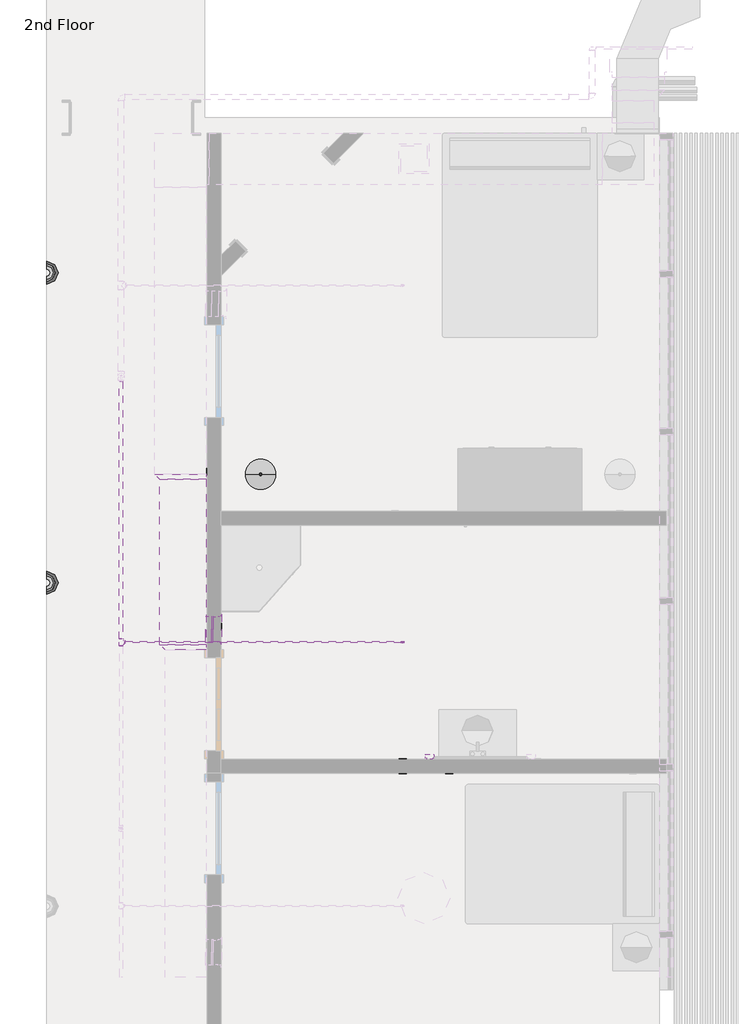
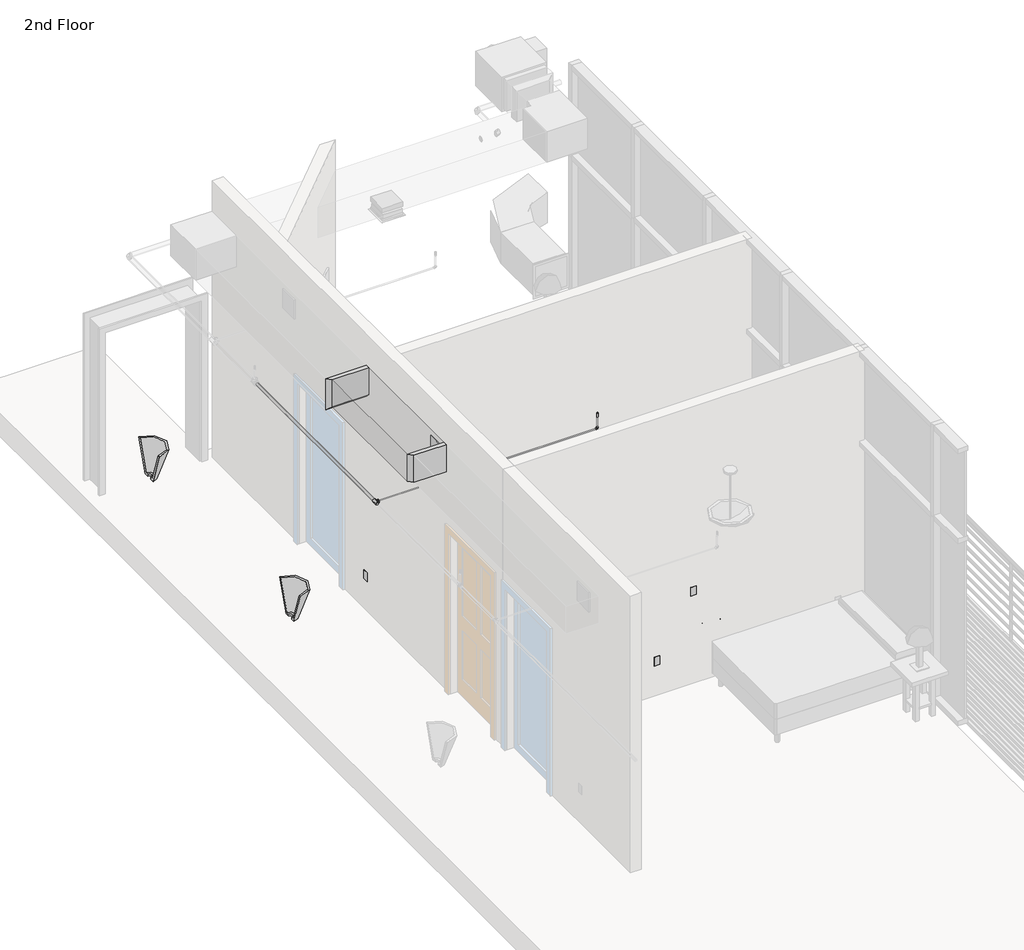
# One storey, part 5 of 7: 25 pipe fittings, 24 pipe segments, 4 light fixtures, 4 proxies, 3 duct fittings, 2 duct segments, 1 air terminal, 1 electric appliance, 1 fire suppression terminal.
"""IFC4 building model written with IfcOpenShell, lengths in millimetres."""

from ifc_helpers import new_model, si_unit, point, frame, frame_2d, origin, place, context, project, spatial, polyline, circle_curve, trimmed, segment, composite_curve, outline, extrude, transform, mapped, element, save
from components import air_terminal_37217d21, receptacle_gfci_367a9a66, rectangular_duct_takeoff_sidewall_standard_8ecd27dc, rectangular_duct_transition_standard_567f2710, rectangular_duct_transition_standard_d7059f15, telephone_wall_10251bba, fire_suppression_terminal_f250fbbb, light_fixture_120v_8a54b260, sconce_light_uplight_100w_120v_70b3641e, bow_series_bow_series_fd234733, pipe_elbow_standard_aad62f2d, pipe_pvc_bend_standard_2273d009, pipe_pvc_bend_standard_0bbfa224, pipe_pvc_bend_standard_f934f846, pipe_pvc_bend_standard_dba494f2, pipe_pvc_bend_standard_4ddb6c24, pipe_pvc_bend_standard_ed346d0c, pipe_pvc_short_sanitary_tee_standard_09ca7ede, pipe_pvc_transition_eccentric_standard_d1b767a5, pipe_tee_standard_60c871d1, pipe_tee_standard_36278b8a, pipe_transition_eccentric_standard_8ef0957a, pipe_transition_eccentric_standard_8de4c794, pipe_transition_eccentric_standard_b9d171b6

model = new_model("IFC4")

# Units and contexts
model_context = context("Model", 3, world=origin())
ifc_project = project(units=[si_unit("LENGTHUNIT", "METRE", prefix="MILLI")], contexts=[model_context])

# Site, building, storey
site = spatial("IfcSite", under=ifc_project)
building = spatial("IfcBuilding", under=site)
storey = spatial("IfcBuildingStorey", under=building, Name="2nd Floor", Elevation=7924.8)

# Air terminal
placement = place(None, origin())
air_terminal_shape = air_terminal_37217d21(model_context)
element("IfcAirTerminal", 1, ObjectType="Sidewall Diffuser : 10\" x 10\"", at=placement, inside=storey, context=model_context, shape_type="MappedRepresentation", body=[
    mapped(air_terminal_shape, transform((-2752.277497, 4276.4310017, 10972.8), x_axis=(0.0, 1.0, 0.0), y_axis=(-1.0, 0.0, 0.0), z_axis=(0.0, 0.0, 1.0))),
])

# Proxies
receptacle_gfci_shape = receptacle_gfci_367a9a66(model_context)
element("IfcBuildingElementProxy", 2, Name="Receptacle : Standard", ObjectType="Receptacle : Standard", at=placement, inside=storey, context=model_context, shape_type="MappedRepresentation", body=[
    mapped(receptacle_gfci_shape, transform((-964.9604947, 3000.0810017, 8382.0), x_axis=(-1.0, 0.0, 0.0), y_axis=(0.0, 0.0, 1.0), z_axis=(0.0, 1.0, 0.0))),
])
element("IfcBuildingElementProxy", 3, Name="Receptacle : Standard", ObjectType="Receptacle : Standard", at=placement, inside=storey, context=model_context, shape_type="MappedRepresentation", body=[
    mapped(receptacle_gfci_shape, transform((-964.9604947, 2860.3810017, 8382.0), x_axis=(1.0, 0.0, 0.0), y_axis=(0.0, 0.0, 1.0), z_axis=(0.0, -1.0, 0.0))),
])
element("IfcBuildingElementProxy", 4, Name="Receptacle : Standard", ObjectType="Receptacle : Standard", at=placement, inside=storey, context=model_context, shape_type="MappedRepresentation", body=[
    mapped(receptacle_gfci_shape, transform((-2749.3104947, 4301.8310017, 8382.0), x_axis=(0.0, 1.0, 0.0), y_axis=(0.0, 0.0, 1.0), z_axis=(1.0, 0.0, 0.0))),
])
element("IfcBuildingElementProxy", 5, Name="Receptacle : Standard", ObjectType="Receptacle : Standard", at=placement, inside=storey, context=model_context, shape_type="MappedRepresentation", body=[
    mapped(receptacle_gfci_shape, transform((-2889.0104947, 5825.8310017, 8382.0), x_axis=(0.0, -1.0, 0.0), y_axis=(0.0, 0.0, 1.0), z_axis=(-1.0, 0.0, 0.0))),
])

# Duct fittings
rectangular_duct_takeoff_sidewall_standard_shape = rectangular_duct_takeoff_sidewall_standard_8ecd27dc(model_context)
element("IfcDuctFitting", 6, ObjectType="Rectangular Duct Takeoff - Sidewall : Standard", at=placement, inside=storey, context=model_context, shape_type="MappedRepresentation", body=[
    mapped(rectangular_duct_takeoff_sidewall_standard_shape, transform((-2895.3604947, 4276.4310017, 10972.8), x_axis=(1.0, 0.0, 0.0), y_axis=(0.0, -1.0, 0.0), z_axis=(0.0, 0.0, -1.0))),
])
rectangular_duct_transition_standard_shape = rectangular_duct_transition_standard_567f2710(model_context)
element("IfcDuctFitting", 7, ObjectType="Rectangular Duct Transition : Standard", at=placement, inside=storey, context=model_context, shape_type="MappedRepresentation", body=[
    mapped(rectangular_duct_transition_standard_shape, transform((-3098.5604947, 4073.2310017, 10998.2), x_axis=(0.0, 1.0, 0.0), y_axis=(1.0, 0.0, 0.0), z_axis=(0.0, 0.0, -1.0))),
])
rectangular_duct_transition_standard_2_shape = rectangular_duct_transition_standard_d7059f15(model_context)
element("IfcDuctFitting", 8, ObjectType="Rectangular Duct Transition : Standard", at=placement, inside=storey, context=model_context, shape_type="MappedRepresentation", body=[
    mapped(rectangular_duct_transition_standard_2_shape, transform((-3123.9604947, 5749.6310017, 10998.2), x_axis=(0.0, 1.0, 0.0), y_axis=(1.0, 0.0, 0.0), z_axis=(0.0, 0.0, -1.0))),
])

# Duct segments
element("IfcDuctSegment", 9, ObjectType="Mitered Elbows / Taps Sidewall", at=placement, inside=storey, context=model_context, shape_type="SweptSolid", body=[
    extrude(outline(polyline([(-2844.5604947, 4149.4310017), (-2844.5604947, 4403.4310017), (-2828.477497, 4403.4310017), (-2828.477497, 4149.4310017), (-2844.5604947, 4149.4310017)])), frame((0.0, 0.0, 10845.8), z_axis=(0.0, 0.0, 1.0), x_axis=(1.0, 0.0, 0.0)), (0.0, 0.0, 1.0), 254.0),
])
element("IfcDuctSegment", 10, ObjectType="Mitered Elbows / Tees", at=placement, inside=storey, context=model_context, shape_type="SweptSolid", body=[
    extrude(outline(polyline([(-2895.3604947, 4124.0310017), (-3352.5604947, 4124.0310017), (-3352.5604947, 5749.6310017), (-2895.3604947, 5749.6310017), (-2895.3604947, 4124.0310017)])), frame((0.0, 0.0, 10820.4), z_axis=(0.0, 0.0, 1.0), x_axis=(1.0, 0.0, 0.0)), (0.0, 0.0, 1.0), 355.6),
])

# Electric appliance
telephone_wall_shape = telephone_wall_10251bba(model_context)
element("IfcElectricAppliance", 11, ObjectType="Telephone : Wall", at=placement, inside=storey, context=model_context, shape_type="MappedRepresentation", body=[
    mapped(telephone_wall_shape, transform((-507.7604947, 2860.3810017, 9144.0), x_axis=(-1.0, 0.0, 0.0), y_axis=(0.0, 0.0, -1.0), z_axis=(0.0, -1.0, 0.0))),
])

# Fire suppression terminal
fire_suppression_terminal_shape = fire_suppression_terminal_f250fbbb(model_context)
element("IfcFireSuppressionTerminal", 12, ObjectType="Sprinkler - Upright : 1/2\" Upright", at=placement, inside=storey, context=model_context, shape_type="MappedRepresentation", body=[
    mapped(fire_suppression_terminal_shape, transform((-961.8439612, 4149.4310017, 10820.4), x_axis=(1.0, 0.0, 0.0), y_axis=(0.0, 1.0, 0.0), z_axis=(0.0, 0.0, 1.0))),
])

# Light fixtures
light_fixture_120v_shape = light_fixture_120v_8a54b260(model_context)
element("IfcLightFixture", 13, ObjectType="Floor Lamp - Torchiere : 120V", at=placement, inside=storey, context=model_context, shape_type="MappedRepresentation", body=[
    mapped(light_fixture_120v_shape, transform((-2361.9604947, 5799.559643, 7924.8), x_axis=(1.0, 0.0, 0.0), y_axis=(0.0, 1.0, 0.0), z_axis=(0.0, 0.0, 1.0))),
])
sconce_light_uplight_100w_120v_shape = sconce_light_uplight_100w_120v_70b3641e(model_context)
element("IfcLightFixture", 14, ObjectType="Sconce Light - Uplight : 60W - 120V", at=placement, inside=storey, context=model_context, shape_type="MappedRepresentation", body=[
    mapped(sconce_light_uplight_100w_120v_shape, transform((-4467.0439612, 7780.759643, 9245.6), x_axis=(0.0, 1.0, 0.0), y_axis=(0.0, 0.0, 1.0), z_axis=(1.0, 0.0, 0.0))),
])
element("IfcLightFixture", 15, ObjectType="Sconce Light - Uplight : 60W - 120V", at=placement, inside=storey, context=model_context, shape_type="MappedRepresentation", body=[
    mapped(sconce_light_uplight_100w_120v_shape, transform((-4467.0439612, 4732.759643, 9245.6), x_axis=(0.0, 1.0, 0.0), y_axis=(0.0, 0.0, 1.0), z_axis=(1.0, 0.0, 0.0))),
])
bow_series_bow_series_shape = bow_series_bow_series_fd234733(model_context)
element("IfcLightFixture", 16, ObjectType="bow series : bow series", at=placement, inside=storey, context=model_context, shape_type="MappedRepresentation", body=[
    mapped(bow_series_bow_series_shape, transform((-699.1190612, 3035.8061017, 9144.0), x_axis=(-1.0, 0.0, 0.0), y_axis=(0.0, -1.0, 0.0), z_axis=(0.0, 0.0, 1.0))),
])

# Pipe fittings
pipe_elbow_standard_shape = pipe_elbow_standard_aad62f2d(model_context)
element("IfcPipeFitting", 17, ObjectType="Pipe Elbow : Standard", at=placement, inside=storey, context=model_context, shape_type="MappedRepresentation", body=[
    mapped(pipe_elbow_standard_shape, transform((-2488.9538561, 5385.6489915, 8839.2), x_axis=(0.0, 1.0, 0.0), y_axis=(0.0, 0.0, -1.0), z_axis=(-1.0, 0.0, 0.0))),
])
element("IfcPipeFitting", 18, ObjectType="Pipe Elbow : Standard", at=placement, inside=storey, context=model_context, shape_type="MappedRepresentation", body=[
    mapped(pipe_elbow_standard_shape, transform((-126.8021776, 2919.1285823, 8610.6), x_axis=(0.0, -1.0, 0.0), y_axis=(0.0, 0.0, -1.0), z_axis=(1.0, 0.0, 0.0))),
])
element("IfcPipeFitting", 19, ObjectType="Pipe Elbow : Standard", at=placement, inside=storey, context=model_context, shape_type="MappedRepresentation", body=[
    mapped(pipe_elbow_standard_shape, transform((-126.8021776, 2919.1285823, 7315.2), x_axis=(0.0, 0.0, -1.0), y_axis=(-1.0, 0.0, 0.0), z_axis=(0.0, 1.0, 0.0))),
])
element("IfcPipeFitting", 20, ObjectType="Pipe Elbow : Standard", at=placement, inside=storey, context=model_context, shape_type="MappedRepresentation", body=[
    mapped(pipe_elbow_standard_shape, transform((-2488.9538561, 5385.6489915, 7315.2), x_axis=(0.0, 0.0, -1.0), y_axis=(1.0, 0.0, 0.0), z_axis=(0.0, -1.0, 0.0))),
])
element("IfcPipeFitting", 21, ObjectType="Pipe Elbow : Standard", at=placement, inside=storey, context=model_context, shape_type="MappedRepresentation", body=[
    mapped(pipe_elbow_standard_shape, transform((-330.0021776, 2961.6335222, 8610.6), x_axis=(0.0, -1.0, 0.0), y_axis=(0.0, 0.0, -1.0), z_axis=(1.0, 0.0, 0.0))),
])
element("IfcPipeFitting", 22, ObjectType="Pipe Elbow : Standard", at=placement, inside=storey, context=model_context, shape_type="MappedRepresentation", body=[
    mapped(pipe_elbow_standard_shape, transform((-330.0021776, 2961.6335222, 7213.6), x_axis=(0.0, 0.0, -1.0), y_axis=(-1.0, 0.0, 0.0), z_axis=(0.0, 1.0, 0.0))),
])
element("IfcPipeFitting", 23, ObjectType="Pipe Elbow : Standard", at=placement, inside=storey, context=model_context, shape_type="MappedRepresentation", body=[
    mapped(pipe_elbow_standard_shape, transform((-2260.4941745, 5355.9306764, 8839.2), x_axis=(0.0, 1.0, 0.0), y_axis=(0.0, 0.0, -1.0), z_axis=(-1.0, 0.0, 0.0))),
])
element("IfcPipeFitting", 24, ObjectType="Pipe Elbow : Standard", at=placement, inside=storey, context=model_context, shape_type="MappedRepresentation", body=[
    mapped(pipe_elbow_standard_shape, transform((-2260.4941745, 5355.9306764, 7213.6), x_axis=(0.0, 0.0, -1.0), y_axis=(1.0, 0.0, 0.0), z_axis=(0.0, -1.0, 0.0))),
])
element("IfcPipeFitting", 25, ObjectType="Pipe Elbow1 : Standard 2", at=placement, inside=storey, context=model_context, shape_type="MappedRepresentation", body=[
    mapped(pipe_elbow_standard_shape, transform((-961.8439612, 4149.4310017, 10668.0), x_axis=(0.0, 0.0, -1.0), y_axis=(-1.0, 0.0, 0.0), z_axis=(0.0, 1.0, 0.0))),
])
pipe_pvc_bend_standard_shape = pipe_pvc_bend_standard_2273d009(model_context)
element("IfcPipeFitting", 26, ObjectType="Pipe PVC Bend : Standard", at=placement, inside=storey, context=model_context, shape_type="MappedRepresentation", body=[
    mapped(pipe_pvc_bend_standard_shape, transform((-228.4021776, 3280.3577637, 7525.7310076), x_axis=(0.0, 0.0, -1.0), y_axis=(-1.0, 0.0, 0.0), z_axis=(0.0, 1.0, 0.0))),
])
pipe_pvc_bend_standard_2_shape = pipe_pvc_bend_standard_0bbfa224(model_context)
element("IfcPipeFitting", 27, ObjectType="Pipe PVC Bend : Standard", at=placement, inside=storey, context=model_context, shape_type="MappedRepresentation", body=[
    mapped(pipe_pvc_bend_standard_2_shape, transform((-2374.6538582, 4882.8626381, 7538.6951644), x_axis=(-5.486472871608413e-09, -5.458553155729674e-09, -1.0), y_axis=(5.71507291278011e-11, 1.0, -5.45855315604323e-09), z_axis=(1.0, -5.7150759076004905e-11, -5.486472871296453e-09))),
])
pipe_pvc_bend_standard_3_shape = pipe_pvc_bend_standard_f934f846(model_context)
element("IfcPipeFitting", 28, ObjectType="Pipe PVC Bend : Standard", at=placement, inside=storey, context=model_context, shape_type="MappedRepresentation", body=[
    mapped(pipe_pvc_bend_standard_3_shape, transform((-959.0910198, 3280.3577587, 7410.4008896), x_axis=(0.9999457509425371, 0.0, 0.010416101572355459), y_axis=(-0.010416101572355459, 0.0, 0.9999457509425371), z_axis=(0.0, -1.0, 0.0))),
])
element("IfcPipeFitting", 29, ObjectType="Pipe PVC Bend : Standard", at=placement, inside=storey, context=model_context, shape_type="MappedRepresentation", body=[
    mapped(pipe_pvc_bend_standard_3_shape, transform((-851.3783266, 3280.3577587, 7519.2414337), x_axis=(0.7034144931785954, 0.0, 0.7107798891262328), y_axis=(0.7107798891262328, 0.0, -0.7034144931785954), z_axis=(0.0, 1.0, 0.0))),
])
pipe_pvc_bend_standard_4_shape = pipe_pvc_bend_standard_dba494f2(model_context)
element("IfcPipeFitting", 30, ObjectType="Pipe PVC Bend : Standard", at=placement, inside=storey, context=model_context, shape_type="MappedRepresentation", body=[
    mapped(pipe_pvc_bend_standard_4_shape, transform((-2374.6538582, 5213.0626394, 7535.255581), x_axis=(0.0, 0.9999457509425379, -0.010416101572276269), y_axis=(0.9999457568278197, -0.00010848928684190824, -0.010414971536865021), z_axis=(-0.0104155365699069, -0.010415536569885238, -0.9998915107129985))),
])
pipe_pvc_bend_standard_5_shape = pipe_pvc_bend_standard_4ddb6c24(model_context)
element("IfcPipeFitting", 31, ObjectType="Pipe PVC Bend : Standard", at=placement, inside=storey, context=model_context, shape_type="MappedRepresentation", body=[
    mapped(pipe_pvc_bend_standard_5_shape, transform((-962.2593354, 4855.879471, 7393.9562018), x_axis=(0.9999457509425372, 0.0, 0.010416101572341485), y_axis=(-0.010416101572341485, 0.0, 0.9999457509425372), z_axis=(0.0, -1.0, 0.0))),
])
element("IfcPipeFitting", 32, ObjectType="Pipe PVC Bend : Standard", at=placement, inside=storey, context=model_context, shape_type="MappedRepresentation", body=[
    mapped(pipe_pvc_bend_standard_5_shape, transform((-838.6253818, 4855.879471, 7518.8847165), x_axis=(0.7034144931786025, 0.0, 0.7107798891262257), y_axis=(0.7107798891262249, 4.7543834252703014e-08, -0.7034144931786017), z_axis=(-3.3793201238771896e-08, 0.9999999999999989, 3.3443022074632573e-08))),
])
pipe_pvc_bend_standard_6_shape = pipe_pvc_bend_standard_ed346d0c(model_context)
element("IfcPipeFitting", 33, ObjectType="Pipe PVC Bend : Standard", at=placement, inside=storey, context=model_context, shape_type="MappedRepresentation", body=[
    mapped(pipe_pvc_bend_standard_6_shape, transform((-220.6627723, 4855.8794897, 7525.321827), x_axis=(0.0001931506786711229, 2.8819428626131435e-07, -0.999999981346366), y_axis=(-0.9999999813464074, -2.946352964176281e-09, -0.00019315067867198), z_axis=(-3.0020178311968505e-09, 0.9999999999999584, 2.881937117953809e-07))),
])
pipe_pvc_short_sanitary_tee_standard_shape = pipe_pvc_short_sanitary_tee_standard_09ca7ede(model_context)
element("IfcPipeFitting", 34, ObjectType="Pipe PVC Short Sanitary Tee : Standard", at=placement, inside=storey, context=model_context, shape_type="MappedRepresentation", body=[
    mapped(pipe_pvc_short_sanitary_tee_standard_shape, transform((-1102.7042057, 3280.3577587, 7408.904919), x_axis=(0.0, -0.9999457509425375, 0.010416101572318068), y_axis=(0.9999457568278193, 0.0001084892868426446, 0.010414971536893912), z_axis=(-0.010415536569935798, 0.010415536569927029, 0.9998915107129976))),
])
element("IfcPipeFitting", 35, ObjectType="Pipe PVC Short Sanitary Tee : Standard", at=placement, inside=storey, context=model_context, shape_type="MappedRepresentation", body=[
    mapped(pipe_pvc_short_sanitary_tee_standard_shape, transform((-1102.7042057, 4855.879471, 7392.4932344), x_axis=(0.0, -0.9999457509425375, 0.010416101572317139), y_axis=(0.9999457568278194, 0.00010848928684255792, 0.010414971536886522), z_axis=(-0.010415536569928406, 0.010415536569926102, 0.9998915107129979))),
])
pipe_pvc_transition_eccentric_standard_shape = pipe_pvc_transition_eccentric_standard_d1b767a5(model_context)
element("IfcPipeFitting", 36, ObjectType="Pipe PVC Transition Eccentric : Standard", at=placement, inside=storey, context=model_context, shape_type="MappedRepresentation", body=[
    mapped(pipe_pvc_transition_eccentric_standard_shape, transform((-996.509451, 3280.3577587, 7410.0111143), x_axis=(0.9999457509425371, 0.0, 0.010416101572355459), y_axis=(0.010415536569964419, -0.01041553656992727, -0.9998915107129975), z_axis=(0.00010848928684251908, 0.9999457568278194, -0.010414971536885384))),
])
pipe_tee_standard_shape = pipe_tee_standard_60c871d1(model_context)
element("IfcPipeFitting", 37, ObjectType="Pipe Tee : Standard", at=placement, inside=storey, context=model_context, shape_type="MappedRepresentation", body=[
    mapped(pipe_tee_standard_shape, transform((-3733.5604947, 4149.4310017, 10668.0), x_axis=(0.0, -1.0, 0.0), y_axis=(-1.0, 0.0, 0.0), z_axis=(0.0, 0.0, -1.0))),
])
pipe_tee_standard_2_shape = pipe_tee_standard_36278b8a(model_context)
element("IfcPipeFitting", 38, ObjectType="Pipe Tee : Standard", at=placement, inside=storey, context=model_context, shape_type="MappedRepresentation", body=[
    mapped(pipe_tee_standard_2_shape, transform((-937.0514215, 2961.6335222, 7213.6), x_axis=(0.0, -1.0, 0.0), y_axis=(-1.0, 0.0, 0.0), z_axis=(0.0, 0.0, -1.0))),
])
pipe_transition_eccentric_standard_shape = pipe_transition_eccentric_standard_8ef0957a(model_context)
element("IfcPipeFitting", 39, ObjectType="Pipe Transition Eccentric : Standard", at=placement, inside=storey, context=model_context, shape_type="MappedRepresentation", body=[
    mapped(pipe_transition_eccentric_standard_shape, transform((-894.1889215, 2961.6335222, 7213.6), x_axis=(1.0, 0.0, 0.0), y_axis=(0.0, -1.0, 0.0), z_axis=(0.0, 0.0, -1.0))),
])
pipe_transition_eccentric_standard_2_shape = pipe_transition_eccentric_standard_8de4c794(model_context)
element("IfcPipeFitting", 40, ObjectType="Pipe Transition Eccentric : Standard", at=placement, inside=storey, context=model_context, shape_type="MappedRepresentation", body=[
    mapped(pipe_transition_eccentric_standard_2_shape, transform((-3700.2229947, 4149.4310017, 10668.0), x_axis=(1.0, 0.0, 0.0), y_axis=(0.0, 1.0, 0.0), z_axis=(0.0, 0.0, 1.0))),
])
pipe_transition_eccentric_standard_3_shape = pipe_transition_eccentric_standard_b9d171b6(model_context)
element("IfcPipeFitting", 41, ObjectType="Pipe Transition Eccentric : Standard", at=placement, inside=storey, context=model_context, shape_type="MappedRepresentation", body=[
    mapped(pipe_transition_eccentric_standard_3_shape, transform((-3733.5604947, 4116.0935017, 10668.0), x_axis=(0.0, -1.0, 0.0), y_axis=(1.0, 0.0, 0.0), z_axis=(0.0, 0.0, 1.0))),
])

# Pipe segments
element("IfcPipeSegment", 42, ObjectType="PVC", at=placement, inside=storey, context=model_context, shape_type="SweptSolid", body=[
    extrude(outline(composite_curve([segment(trimmed(circle_curve(frame_2d((-228.4021776, 3280.3577637)), 21.082), [point((-207.3201776, 3280.3577637))], [point((-228.4021776, 3259.2757637))], False, "CARTESIAN"), True, "CONTINUOUS"), segment(trimmed(circle_curve(frame_2d((-228.4021776, 3280.3577637)), 21.082), [point((-228.4021776, 3259.2757637))], [point((-249.4841776, 3280.3577637))], False, "CARTESIAN"), True, "CONTINUOUS"), segment(trimmed(circle_curve(frame_2d((-228.4021776, 3280.3577637)), 21.082), [point((-249.4841776, 3280.3577637))], [point((-228.4021776, 3301.4397637))], False, "CARTESIAN"), True, "CONTINUOUS"), segment(trimmed(circle_curve(frame_2d((-228.4021776, 3280.3577637)), 21.082), [point((-228.4021776, 3301.4397637))], [point((-207.3201776, 3280.3577637))], False, "CARTESIAN"), True, "CONTINUOUS")], self_intersect=False)), frame((0.0, 0.0, 7562.3050438), z_axis=(0.0, 0.0, 1.0), x_axis=(1.0, 0.0, 0.0)), (0.0, 0.0, 1.0), 991.1449562),
])
element("IfcPipeSegment", 43, ObjectType="PVC", at=placement, inside=storey, context=model_context, shape_type="SweptSolid", body=[
    extrude(outline(composite_curve([segment(trimmed(circle_curve(frame_2d((0.0, -44.45)), 44.45), [point((-44.45, -44.45))], [point((0.0, 0.0))], False, "CARTESIAN"), True, "CONTINUOUS"), segment(trimmed(circle_curve(frame_2d((0.0, -44.45)), 44.45), [point((0.0, 0.0))], [point((44.4499999, -44.45))], False, "CARTESIAN"), True, "CONTINUOUS"), segment(trimmed(circle_curve(frame_2d((0.0, -44.45)), 44.45), [point((44.4499999, -44.45))], [point((0.0, -88.9))], False, "CARTESIAN"), True, "CONTINUOUS"), segment(trimmed(circle_curve(frame_2d((0.0, -44.45)), 44.45), [point((0.0, -88.9))], [point((-44.45, -44.45))], False, "CARTESIAN"), True, "CONTINUOUS")], self_intersect=False)), frame((-220.6743056, 4811.4294725, 7585.0332333), z_axis=(-0.00019315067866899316, -2.8819428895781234e-07, 0.999999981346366), x_axis=(-0.9999999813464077, 5.566569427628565e-11, -0.00019315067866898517)), (0.0, 0.0, 1.0), 339.7667603),
])
element("IfcPipeSegment", 44, ObjectType="PVC", at=placement, inside=storey, context=model_context, shape_type="SweptSolid", body=[
    extrude(outline(composite_curve([segment(trimmed(circle_curve(frame_2d((0.0, -21.082)), 21.082), [point((0.0, 0.0))], [point((21.082, -21.082))], False, "CARTESIAN"), True, "CONTINUOUS"), segment(trimmed(circle_curve(frame_2d((0.0, -21.082)), 21.082), [point((21.082, -21.082))], [point((0.0, -42.164))], False, "CARTESIAN"), True, "CONTINUOUS"), segment(trimmed(circle_curve(frame_2d((0.0, -21.082)), 21.082), [point((0.0, -42.164))], [point((-21.082, -21.082))], False, "CARTESIAN"), True, "CONTINUOUS"), segment(trimmed(circle_curve(frame_2d((0.0, -21.082)), 21.082), [point((-21.082, -21.082))], [point((0.0, 0.0))], False, "CARTESIAN"), True, "CONTINUOUS")], self_intersect=False)), frame((-836.1836898, 3301.4397587, 7519.3997087), z_axis=(0.9999457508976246, 0.0, 0.010416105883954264), x_axis=(0.010416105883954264, 0.0, -0.9999457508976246)), (0.0, 0.0, 1.0), 571.2404518),
])
element("IfcPipeSegment", 45, ObjectType="PVC", at=placement, inside=storey, context=model_context, shape_type="SweptSolid", body=[
    extrude(outline(composite_curve([segment(trimmed(circle_curve(frame_2d((0.0, 44.45)), 44.45), [point((-44.4475888, 44.9129706))], [point((0.4629706, 88.8975889))], False, "CARTESIAN"), True, "CONTINUOUS"), segment(trimmed(circle_curve(frame_2d((0.0, 44.45)), 44.45), [point((0.4629706, 88.8975889))], [point((44.4475889, 43.9870294))], False, "CARTESIAN"), True, "CONTINUOUS"), segment(trimmed(circle_curve(frame_2d((0.0, 44.45)), 44.45), [point((44.4475889, 43.9870294))], [point((-0.4629705, 0.0024112))], False, "CARTESIAN"), True, "CONTINUOUS"), segment(trimmed(circle_curve(frame_2d((0.0, 44.45)), 44.45), [point((-0.4629705, 0.0024112))], [point((-44.4475888, 44.9129706))], False, "CARTESIAN"), True, "CONTINUOUS")], self_intersect=False)), frame((-1029.6910794, 3235.9077587, 7409.6654724), z_axis=(0.9999457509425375, 0.0, 0.01041610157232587), x_axis=(0.01041610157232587, 0.0, -0.9999457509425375)), (0.0, 0.0, 1.0), 33.1834285),
])
element("IfcPipeSegment", 46, ObjectType="PVC", at=placement, inside=storey, context=model_context, shape_type="SweptSolid", body=[
    extrude(outline(composite_curve([segment(trimmed(circle_curve(frame_2d((0.0, 21.082)), 21.082), [point((0.0, 0.0))], [point((-21.082, 21.082))], False, "CARTESIAN"), True, "CONTINUOUS"), segment(trimmed(circle_curve(frame_2d((0.0, 21.082)), 21.082), [point((-21.082, 21.082))], [point((0.0, 42.164))], False, "CARTESIAN"), True, "CONTINUOUS"), segment(trimmed(circle_curve(frame_2d((0.0, 21.082)), 21.082), [point((0.0, 42.164))], [point((21.082, 21.082))], False, "CARTESIAN"), True, "CONTINUOUS"), segment(trimmed(circle_curve(frame_2d((0.0, 21.082)), 21.082), [point((21.082, 21.082))], [point((0.0, 0.0))], False, "CARTESIAN"), True, "CONTINUOUS")], self_intersect=False)), frame((-948.4023122, 3259.2757587, 7421.2015179), z_axis=(0.7034144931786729, 0.0, 0.7107798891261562), x_axis=(0.7107798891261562, 0.0, -0.7034144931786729)), (0.0, 0.0, 1.0), 122.737417),
])
element("IfcPipeSegment", 47, ObjectType="PVC", at=placement, inside=storey, context=model_context, shape_type="SweptSolid", body=[
    extrude(outline(composite_curve([segment(trimmed(circle_curve(frame_2d((0.0, 44.45)), 44.45), [point((-44.45, 44.45))], [point((0.0, 88.8999999))], False, "CARTESIAN"), True, "CONTINUOUS"), segment(trimmed(circle_curve(frame_2d((0.0, 44.45)), 44.45), [point((0.0, 88.8999999))], [point((44.45, 44.45))], False, "CARTESIAN"), True, "CONTINUOUS"), segment(trimmed(circle_curve(frame_2d((0.0, 44.45)), 44.45), [point((44.45, 44.45))], [point((0.0, 0.0))], False, "CARTESIAN"), True, "CONTINUOUS"), segment(trimmed(circle_curve(frame_2d((0.0, 44.45)), 44.45), [point((0.0, 0.0))], [point((-44.45, 44.45))], False, "CARTESIAN"), True, "CONTINUOUS")], self_intersect=False)), frame((-1102.7042057, 4807.7861373, 7348.5417952), z_axis=(0.0, -0.9999457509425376, 0.010416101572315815), x_axis=(1.0, 0.0, 0.0)), (0.0, 0.0, 1.0), 1454.9571879),
])
element("IfcPipeSegment", 48, ObjectType="PVC", at=placement, inside=storey, context=model_context, shape_type="SweptSolid", body=[
    extrude(outline(composite_curve([segment(trimmed(circle_curve(frame_2d((0.0, -30.1625)), 30.1625), [point((30.1625, -30.1625))], [point((0.0, -60.325))], False, "CARTESIAN"), True, "CONTINUOUS"), segment(trimmed(circle_curve(frame_2d((0.0, -30.1625)), 30.1625), [point((0.0, -60.325))], [point((-30.1625, -30.1625))], False, "CARTESIAN"), True, "CONTINUOUS"), segment(trimmed(circle_curve(frame_2d((0.0, -30.1625)), 30.1625), [point((-30.1625, -30.1625))], [point((0.0, 0.0))], False, "CARTESIAN"), True, "CONTINUOUS"), segment(trimmed(circle_curve(frame_2d((0.0, -30.1625)), 30.1625), [point((0.0, 0.0))], [point((30.1625, -30.1625))], False, "CARTESIAN"), True, "CONTINUOUS")], self_intersect=False)), frame((-2374.6538582, 5167.3468065, 7565.895924), z_axis=(0.0, -0.999945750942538, 0.010416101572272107), x_axis=(1.0, 0.0, 0.0)), (0.0, 0.0, 1.0), 238.6249689),
])
element("IfcPipeSegment", 49, ObjectType="PVC", at=placement, inside=storey, context=model_context, shape_type="SweptSolid", body=[
    extrude(outline(composite_curve([segment(trimmed(circle_curve(frame_2d((1e-07, -30.1625)), 30.1625), [point((1e-07, -60.325))], [point((-30.1625, -30.1625001))], False, "CARTESIAN"), True, "CONTINUOUS"), segment(trimmed(circle_curve(frame_2d((1e-07, -30.1625)), 30.1625), [point((-30.1625, -30.1625001))], [point((0.0, 0.0))], False, "CARTESIAN"), True, "CONTINUOUS"), segment(trimmed(circle_curve(frame_2d((1e-07, -30.1625)), 30.1625), [point((0.0, 0.0))], [point((30.1625, -30.1624999))], False, "CARTESIAN"), True, "CONTINUOUS"), segment(trimmed(circle_curve(frame_2d((1e-07, -30.1625)), 30.1625), [point((30.1625, -30.1624999))], [point((1e-07, -60.325))], False, "CARTESIAN"), True, "CONTINUOUS")], self_intersect=False)), frame((-1413.0425963, 5243.2251394, 7525.2387921), z_axis=(-0.9999457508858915, -1.9294873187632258e-11, 0.010416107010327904), x_axis=(0.010416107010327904, -1.852306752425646e-09, 0.9999457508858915)), (0.0, 0.0, 1.0), 915.630926),
])
element("IfcPipeSegment", 50, ObjectType="PVC", at=placement, inside=storey, context=model_context, shape_type="SweptSolid", body=[
    extrude(outline(composite_curve([segment(trimmed(circle_curve(frame_2d((-1e-07, -44.45)), 44.45), [point((-0.0001428, 0.0))], [point((44.45, -44.4498573))], False, "CARTESIAN"), True, "CONTINUOUS"), segment(trimmed(circle_curve(frame_2d((-1e-07, -44.45)), 44.45), [point((44.45, -44.4498573))], [point((0.0001426, -88.9))], False, "CARTESIAN"), True, "CONTINUOUS"), segment(trimmed(circle_curve(frame_2d((-1e-07, -44.45)), 44.45), [point((0.0001426, -88.9))], [point((-44.4500001, -44.4501427))], False, "CARTESIAN"), True, "CONTINUOUS"), segment(trimmed(circle_curve(frame_2d((-1e-07, -44.45)), 44.45), [point((-44.4500001, -44.4501427))], [point((-0.0001428, 0.0))], False, "CARTESIAN"), True, "CONTINUOUS")], self_intersect=False)), frame((-813.8231395, 4900.3294718, 7519.142928), z_axis=(0.9999457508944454, 3.3443022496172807e-08, 0.010416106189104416), x_axis=(0.010416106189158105, -3.2105287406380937e-06, -0.9999457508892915)), (0.0, 0.0, 1.0), 533.4811273),
])
element("IfcPipeSegment", 51, ObjectType="PVC", at=placement, inside=storey, context=model_context, shape_type="SweptSolid", body=[
    extrude(outline(composite_curve([segment(trimmed(circle_curve(frame_2d((0.0, 44.45)), 44.45), [point((-8.29e-05, 0.0))], [point((-44.4500001, 44.4500828))], False, "CARTESIAN"), True, "CONTINUOUS"), segment(trimmed(circle_curve(frame_2d((0.0, 44.45)), 44.45), [point((-44.4500001, 44.4500828))], [point((8.28e-05, 88.9))], False, "CARTESIAN"), True, "CONTINUOUS"), segment(trimmed(circle_curve(frame_2d((0.0, 44.45)), 44.45), [point((8.28e-05, 88.9))], [point((44.45, 44.4499172))], False, "CARTESIAN"), True, "CONTINUOUS"), segment(trimmed(circle_curve(frame_2d((0.0, 44.45)), 44.45), [point((44.45, 44.4499172))], [point((-8.29e-05, 0.0))], False, "CARTESIAN"), True, "CONTINUOUS")], self_intersect=False)), frame((-1029.6910794, 4811.429471, 7393.2537878), z_axis=(0.9999457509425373, 0.0, 0.010416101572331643), x_axis=(0.010416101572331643, 0.0, -0.9999457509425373)), (0.0, 0.0, 1.0), 42.6318144),
])
element("IfcPipeSegment", 52, ObjectType="PVC", at=placement, inside=storey, context=model_context, shape_type="SweptSolid", body=[
    extrude(outline(composite_curve([segment(trimmed(circle_curve(frame_2d((0.0, 44.45)), 44.45), [point((0.0, 0.0))], [point((-44.45, 44.45))], False, "CARTESIAN"), True, "CONTINUOUS"), segment(trimmed(circle_curve(frame_2d((0.0, 44.45)), 44.45), [point((-44.45, 44.45))], [point((0.0, 88.9))], False, "CARTESIAN"), True, "CONTINUOUS"), segment(trimmed(circle_curve(frame_2d((0.0, 44.45)), 44.45), [point((0.0, 88.9))], [point((44.45, 44.45))], False, "CARTESIAN"), True, "CONTINUOUS"), segment(trimmed(circle_curve(frame_2d((0.0, 44.45)), 44.45), [point((44.45, 44.45))], [point((0.0, 0.0))], False, "CARTESIAN"), True, "CONTINUOUS")], self_intersect=False)), frame((-944.8121322, 4811.429471, 7411.5860933), z_axis=(0.7034144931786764, 0.0, 0.7107798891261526), x_axis=(0.7107798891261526, 0.0, -0.7034144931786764)), (0.0, 0.0, 1.0), 126.1554149),
])
element("IfcPipeSegment", 53, ObjectType="Standard", at=placement, inside=storey, context=model_context, shape_type="SweptSolid", body=[
    extrude(outline(composite_curve([segment(trimmed(circle_curve(frame_2d((8839.2, -2488.9538561)), 7.9375), [point((8839.2, -2481.0163561))], [point((8847.1375, -2488.9538561))], False, "CARTESIAN"), True, "CONTINUOUS"), segment(trimmed(circle_curve(frame_2d((8839.2, -2488.9538561)), 7.9375), [point((8847.1375, -2488.9538561))], [point((8839.2, -2496.8913561))], False, "CARTESIAN"), True, "CONTINUOUS"), segment(trimmed(circle_curve(frame_2d((8839.2, -2488.9538561)), 7.9375), [point((8839.2, -2496.8913561))], [point((8831.2625, -2488.9538561))], False, "CARTESIAN"), True, "CONTINUOUS"), segment(trimmed(circle_curve(frame_2d((8839.2, -2488.9538561)), 7.9375), [point((8831.2625, -2488.9538561))], [point((8839.2, -2481.0163561))], False, "CARTESIAN"), True, "CONTINUOUS")], self_intersect=False)), frame((0.0, 5314.6626402, 0.0), z_axis=(0.0, 1.0, 0.0), x_axis=(0.0, 0.0, 1.0)), (0.0, 0.0, 1.0), 53.5238513),
])
element("IfcPipeSegment", 54, ObjectType="Standard", at=placement, inside=storey, context=model_context, shape_type="SweptSolid", body=[
    extrude(outline(composite_curve([segment(trimmed(circle_curve(frame_2d((-2488.9538561, 5385.6489915)), 7.9375), [point((-2481.0163561, 5385.6489915))], [point((-2488.9538561, 5377.7114915))], False, "CARTESIAN"), True, "CONTINUOUS"), segment(trimmed(circle_curve(frame_2d((-2488.9538561, 5385.6489915)), 7.9375), [point((-2488.9538561, 5377.7114915))], [point((-2496.8913561, 5385.6489915))], False, "CARTESIAN"), True, "CONTINUOUS"), segment(trimmed(circle_curve(frame_2d((-2488.9538561, 5385.6489915)), 7.9375), [point((-2496.8913561, 5385.6489915))], [point((-2488.9538561, 5393.5864915))], False, "CARTESIAN"), True, "CONTINUOUS"), segment(trimmed(circle_curve(frame_2d((-2488.9538561, 5385.6489915)), 7.9375), [point((-2488.9538561, 5393.5864915))], [point((-2481.0163561, 5385.6489915))], False, "CARTESIAN"), True, "CONTINUOUS")], self_intersect=False)), frame((0.0, 0.0, 7332.6625), z_axis=(0.0, 0.0, 1.0), x_axis=(1.0, 0.0, 0.0)), (0.0, 0.0, 1.0), 1489.075),
])
element("IfcPipeSegment", 55, ObjectType="Standard", at=placement, inside=storey, context=model_context, shape_type="SweptSolid", body=[
    extrude(outline(composite_curve([segment(trimmed(circle_curve(frame_2d((2919.1285823, 7315.2)), 7.9375), [point((2919.1285823, 7323.1375))], [point((2927.0660823, 7315.2))], False, "CARTESIAN"), True, "CONTINUOUS"), segment(trimmed(circle_curve(frame_2d((2919.1285823, 7315.2)), 7.9375), [point((2927.0660823, 7315.2))], [point((2919.1285823, 7307.2625))], False, "CARTESIAN"), True, "CONTINUOUS"), segment(trimmed(circle_curve(frame_2d((2919.1285823, 7315.2)), 7.9375), [point((2919.1285823, 7307.2625))], [point((2911.1910823, 7315.2))], False, "CARTESIAN"), True, "CONTINUOUS"), segment(trimmed(circle_curve(frame_2d((2919.1285823, 7315.2)), 7.9375), [point((2911.1910823, 7315.2))], [point((2919.1285823, 7323.1375))], False, "CARTESIAN"), True, "CONTINUOUS")], self_intersect=False)), frame((-1001.9812677, 0.0, 0.0), z_axis=(1.0, 0.0, 0.0), x_axis=(0.0, 1.0, 0.0)), (0.0, 0.0, 1.0), 857.71659),
])
element("IfcPipeSegment", 56, ObjectType="Standard", at=placement, inside=storey, context=model_context, shape_type="SweptSolid", body=[
    extrude(outline(composite_curve([segment(trimmed(circle_curve(frame_2d((7315.2, -1039.2875177)), 14.2875), [point((7315.2, -1025.0000177))], [point((7329.4875, -1039.2875177))], False, "CARTESIAN"), True, "CONTINUOUS"), segment(trimmed(circle_curve(frame_2d((7315.2, -1039.2875177)), 14.2875), [point((7329.4875, -1039.2875177))], [point((7315.2, -1053.5750177))], False, "CARTESIAN"), True, "CONTINUOUS"), segment(trimmed(circle_curve(frame_2d((7315.2, -1039.2875177)), 14.2875), [point((7315.2, -1053.5750177))], [point((7300.9125, -1039.2875177))], False, "CARTESIAN"), True, "CONTINUOUS"), segment(trimmed(circle_curve(frame_2d((7315.2, -1039.2875177)), 14.2875), [point((7300.9125, -1039.2875177))], [point((7315.2, -1025.0000177))], False, "CARTESIAN"), True, "CONTINUOUS")], self_intersect=False)), frame((0.0, 2949.2910823, 0.0), z_axis=(0.0, 1.0, 0.0), x_axis=(0.0, 0.0, 1.0)), (0.0, 0.0, 1.0), 2380.0016592),
])
element("IfcPipeSegment", 57, ObjectType="Standard", at=placement, inside=storey, context=model_context, shape_type="SweptSolid", body=[
    extrude(outline(composite_curve([segment(trimmed(circle_curve(frame_2d((8839.2, -2260.4941745)), 7.9375), [point((8839.2, -2252.5566745))], [point((8847.1375, -2260.4941745))], False, "CARTESIAN"), True, "CONTINUOUS"), segment(trimmed(circle_curve(frame_2d((8839.2, -2260.4941745)), 7.9375), [point((8847.1375, -2260.4941745))], [point((8839.2, -2268.4316745))], False, "CARTESIAN"), True, "CONTINUOUS"), segment(trimmed(circle_curve(frame_2d((8839.2, -2260.4941745)), 7.9375), [point((8839.2, -2268.4316745))], [point((8831.2625, -2260.4941745))], False, "CARTESIAN"), True, "CONTINUOUS"), segment(trimmed(circle_curve(frame_2d((8839.2, -2260.4941745)), 7.9375), [point((8831.2625, -2260.4941745))], [point((8839.2, -2252.5566745))], False, "CARTESIAN"), True, "CONTINUOUS")], self_intersect=False)), frame((0.0, 5314.6626402, 0.0), z_axis=(0.0, 1.0, 0.0), x_axis=(0.0, 0.0, 1.0)), (0.0, 0.0, 1.0), 23.8055361),
])
element("IfcPipeSegment", 58, ObjectType="Standard", at=placement, inside=storey, context=model_context, shape_type="SweptSolid", body=[
    extrude(outline(composite_curve([segment(trimmed(circle_curve(frame_2d((-2260.4941745, 5355.9306764)), 7.9375), [point((-2260.4941745, 5363.8681764))], [point((-2252.5566745, 5355.9306764))], False, "CARTESIAN"), True, "CONTINUOUS"), segment(trimmed(circle_curve(frame_2d((-2260.4941745, 5355.9306764)), 7.9375), [point((-2252.5566745, 5355.9306764))], [point((-2260.4941745, 5347.9931764))], False, "CARTESIAN"), True, "CONTINUOUS"), segment(trimmed(circle_curve(frame_2d((-2260.4941745, 5355.9306764)), 7.9375), [point((-2260.4941745, 5347.9931764))], [point((-2268.4316745, 5355.9306764))], False, "CARTESIAN"), True, "CONTINUOUS"), segment(trimmed(circle_curve(frame_2d((-2260.4941745, 5355.9306764)), 7.9375), [point((-2268.4316745, 5355.9306764))], [point((-2260.4941745, 5363.8681764))], False, "CARTESIAN"), True, "CONTINUOUS")], self_intersect=False)), frame((0.0, 0.0, 7231.0625), z_axis=(0.0, 0.0, 1.0), x_axis=(1.0, 0.0, 0.0)), (0.0, 0.0, 1.0), 1590.675),
])
element("IfcPipeSegment", 59, ObjectType="Standard", at=placement, inside=storey, context=model_context, shape_type="SweptSolid", body=[
    extrude(outline(composite_curve([segment(trimmed(circle_curve(frame_2d((8610.6, -330.0021776)), 7.9375), [point((8610.6, -337.9396776))], [point((8602.6625, -330.0021776))], False, "CARTESIAN"), True, "CONTINUOUS"), segment(trimmed(circle_curve(frame_2d((8610.6, -330.0021776)), 7.9375), [point((8602.6625, -330.0021776))], [point((8610.6, -322.0646776))], False, "CARTESIAN"), True, "CONTINUOUS"), segment(trimmed(circle_curve(frame_2d((8610.6, -330.0021776)), 7.9375), [point((8610.6, -322.0646776))], [point((8618.5375, -330.0021776))], False, "CARTESIAN"), True, "CONTINUOUS"), segment(trimmed(circle_curve(frame_2d((8610.6, -330.0021776)), 7.9375), [point((8618.5375, -330.0021776))], [point((8610.6, -337.9396776))], False, "CARTESIAN"), True, "CONTINUOUS")], self_intersect=False)), frame((0.0, 2979.0960222, 0.0), z_axis=(0.0, 1.0, 0.0), x_axis=(0.0, 0.0, 1.0)), (0.0, 0.0, 1.0), 21.0679915),
])
element("IfcPipeSegment", 60, ObjectType="Standard", at=placement, inside=storey, context=model_context, shape_type="SweptSolid", body=[
    extrude(outline(composite_curve([segment(trimmed(circle_curve(frame_2d((-330.0021776, 2961.6335222)), 7.9375), [point((-330.0021776, 2953.6960222))], [point((-337.9396776, 2961.6335222))], False, "CARTESIAN"), True, "CONTINUOUS"), segment(trimmed(circle_curve(frame_2d((-330.0021776, 2961.6335222)), 7.9375), [point((-337.9396776, 2961.6335222))], [point((-330.0021776, 2969.5710222))], False, "CARTESIAN"), True, "CONTINUOUS"), segment(trimmed(circle_curve(frame_2d((-330.0021776, 2961.6335222)), 7.9375), [point((-330.0021776, 2969.5710222))], [point((-322.0646776, 2961.6335222))], False, "CARTESIAN"), True, "CONTINUOUS"), segment(trimmed(circle_curve(frame_2d((-330.0021776, 2961.6335222)), 7.9375), [point((-322.0646776, 2961.6335222))], [point((-330.0021776, 2953.6960222))], False, "CARTESIAN"), True, "CONTINUOUS")], self_intersect=False)), frame((0.0, 0.0, 7231.0625), z_axis=(0.0, 0.0, 1.0), x_axis=(1.0, 0.0, 0.0)), (0.0, 0.0, 1.0), 1362.075),
])
element("IfcPipeSegment", 61, ObjectType="Standard", at=placement, inside=storey, context=model_context, shape_type="SweptSolid", body=[
    extrude(outline(composite_curve([segment(trimmed(circle_curve(frame_2d((2961.6335222, 7213.6)), 7.9375), [point((2953.6960222, 7213.6))], [point((2961.6335222, 7221.5375))], False, "CARTESIAN"), True, "CONTINUOUS"), segment(trimmed(circle_curve(frame_2d((2961.6335222, 7213.6)), 7.9375), [point((2961.6335222, 7221.5375))], [point((2969.5710222, 7213.6))], False, "CARTESIAN"), True, "CONTINUOUS"), segment(trimmed(circle_curve(frame_2d((2961.6335222, 7213.6)), 7.9375), [point((2969.5710222, 7213.6))], [point((2961.6335222, 7205.6625))], False, "CARTESIAN"), True, "CONTINUOUS"), segment(trimmed(circle_curve(frame_2d((2961.6335222, 7213.6)), 7.9375), [point((2961.6335222, 7205.6625))], [point((2953.6960222, 7213.6))], False, "CARTESIAN"), True, "CONTINUOUS")], self_intersect=False)), frame((-880.6951715, 0.0, 0.0), z_axis=(1.0, 0.0, 0.0), x_axis=(0.0, 1.0, 0.0)), (0.0, 0.0, 1.0), 533.2304939),
])
element("IfcPipeSegment", 62, ObjectType="Standard", at=placement, inside=storey, context=model_context, shape_type="SweptSolid", body=[
    extrude(outline(composite_curve([segment(trimmed(circle_curve(frame_2d((7213.6, -937.0514215)), 26.9875), [point((7213.6, -910.0639215))], [point((7240.5875, -937.0514215))], False, "CARTESIAN"), True, "CONTINUOUS"), segment(trimmed(circle_curve(frame_2d((7213.6, -937.0514215)), 26.9875), [point((7240.5875, -937.0514215))], [point((7213.6, -964.0389215))], False, "CARTESIAN"), True, "CONTINUOUS"), segment(trimmed(circle_curve(frame_2d((7213.6, -937.0514215)), 26.9875), [point((7213.6, -964.0389215))], [point((7186.6125, -937.0514215))], False, "CARTESIAN"), True, "CONTINUOUS"), segment(trimmed(circle_curve(frame_2d((7213.6, -937.0514215)), 26.9875), [point((7186.6125, -937.0514215))], [point((7213.6, -910.0639215))], False, "CARTESIAN"), True, "CONTINUOUS")], self_intersect=False)), frame((0.0, 3004.4960222, 0.0), z_axis=(0.0, 1.0, 0.0), x_axis=(0.0, 0.0, 1.0)), (0.0, 0.0, 1.0), 2295.8721542),
])
element("IfcPipeSegment", 63, ObjectType="Standard", at=placement, inside=storey, context=model_context, shape_type="SweptSolid", body=[
    extrude(outline(composite_curve([segment(trimmed(circle_curve(frame_2d((4149.4310017, 10668.0)), 7.9375), [point((4141.4935017, 10668.0))], [point((4149.4310017, 10675.9375))], False, "CARTESIAN"), True, "CONTINUOUS"), segment(trimmed(circle_curve(frame_2d((4149.4310017, 10668.0)), 7.9375), [point((4149.4310017, 10675.9375))], [point((4157.3685017, 10668.0))], False, "CARTESIAN"), True, "CONTINUOUS"), segment(trimmed(circle_curve(frame_2d((4149.4310017, 10668.0)), 7.9375), [point((4157.3685017, 10668.0))], [point((4149.4310017, 10660.0625))], False, "CARTESIAN"), True, "CONTINUOUS"), segment(trimmed(circle_curve(frame_2d((4149.4310017, 10668.0)), 7.9375), [point((4149.4310017, 10660.0625))], [point((4141.4935017, 10668.0))], False, "CARTESIAN"), True, "CONTINUOUS")], self_intersect=False)), frame((-3691.4917447, 0.0, 0.0), z_axis=(1.0, 0.0, 0.0), x_axis=(0.0, 1.0, 0.0)), (0.0, 0.0, 1.0), 2712.1852835),
])
element("IfcPipeSegment", 64, ObjectType="Standard", at=placement, inside=storey, context=model_context, shape_type="SweptSolid", body=[
    extrude(outline(composite_curve([segment(trimmed(circle_curve(frame_2d((-961.8439612, 4149.4310017)), 7.9375), [point((-953.9064612, 4149.4310017))], [point((-961.8439612, 4141.4935017))], False, "CARTESIAN"), True, "CONTINUOUS"), segment(trimmed(circle_curve(frame_2d((-961.8439612, 4149.4310017)), 7.9375), [point((-961.8439612, 4141.4935017))], [point((-969.7814612, 4149.4310017))], False, "CARTESIAN"), True, "CONTINUOUS"), segment(trimmed(circle_curve(frame_2d((-961.8439612, 4149.4310017)), 7.9375), [point((-969.7814612, 4149.4310017))], [point((-961.8439612, 4157.3685017))], False, "CARTESIAN"), True, "CONTINUOUS"), segment(trimmed(circle_curve(frame_2d((-961.8439612, 4149.4310017)), 7.9375), [point((-961.8439612, 4157.3685017))], [point((-953.9064612, 4149.4310017))], False, "CARTESIAN"), True, "CONTINUOUS")], self_intersect=False)), frame((0.0, 0.0, 10685.4625), z_axis=(0.0, 0.0, 1.0), x_axis=(1.0, 0.0, 0.0)), (0.0, 0.0, 1.0), 134.9375),
])
element("IfcPipeSegment", 65, ObjectType="Standard", at=placement, inside=storey, context=model_context, shape_type="SweptSolid", body=[
    extrude(outline(composite_curve([segment(trimmed(circle_curve(frame_2d((10668.0, -3733.5604947)), 17.4625), [point((10668.0, -3751.0229947))], [point((10650.5375, -3733.5604947))], False, "CARTESIAN"), True, "CONTINUOUS"), segment(trimmed(circle_curve(frame_2d((10668.0, -3733.5604947)), 17.4625), [point((10650.5375, -3733.5604947))], [point((10668.0, -3716.0979947))], False, "CARTESIAN"), True, "CONTINUOUS"), segment(trimmed(circle_curve(frame_2d((10668.0, -3733.5604947)), 17.4625), [point((10668.0, -3716.0979947))], [point((10685.4625, -3733.5604947))], False, "CARTESIAN"), True, "CONTINUOUS"), segment(trimmed(circle_curve(frame_2d((10668.0, -3733.5604947)), 17.4625), [point((10685.4625, -3733.5604947))], [point((10668.0, -3751.0229947))], False, "CARTESIAN"), True, "CONTINUOUS")], self_intersect=False)), frame((0.0, 4182.7685017, 0.0), z_axis=(0.0, 1.0, 0.0), x_axis=(0.0, 0.0, 1.0)), (0.0, 0.0, 1.0), 2528.4520739),
])

save(model, "model.ifc")
